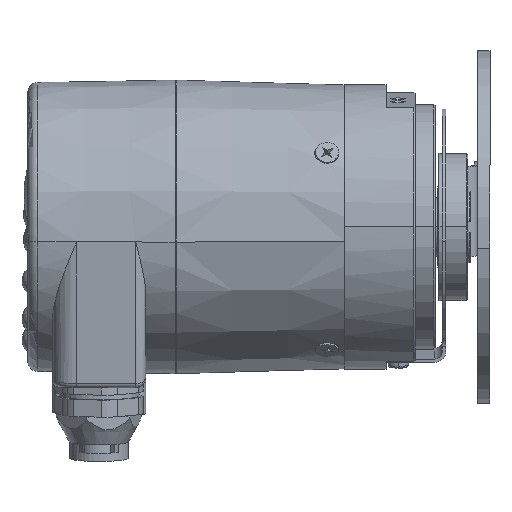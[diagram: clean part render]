
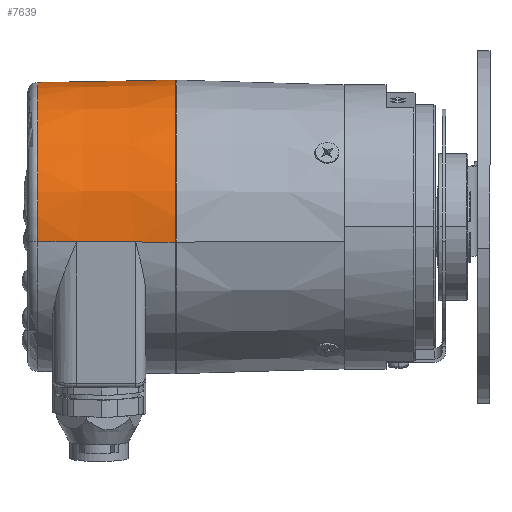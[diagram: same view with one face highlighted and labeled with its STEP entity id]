
A CAD part, top view. The second image highlights one B-rep face of the part: STEP entity #7639.
In plain terms, the highlighted conical face has half-angle 1 degrees and reference radius 30 mm.
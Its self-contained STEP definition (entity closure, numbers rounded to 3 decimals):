
#4719 = VERTEX_POINT ( 'NONE', #23916 ) ;
#4720 = VERTEX_POINT ( 'NONE', #23915 ) ;
#4721 = ORIENTED_EDGE ( 'NONE', *, *, #4779, .T. ) ;
#4722 = ORIENTED_EDGE ( 'NONE', *, *, #4842, .T. ) ;
#4778 = VERTEX_POINT ( 'NONE', #24098 ) ;
#4779 = EDGE_CURVE ( 'NONE', #4720, #4778, #24097, .T. ) ;
#4780 = EDGE_CURVE ( 'NONE', #4781, #4720, #24093, .T. ) ;
#4781 = VERTEX_POINT ( 'NONE', #24088 ) ;
#4782 = ORIENTED_EDGE ( 'NONE', *, *, #4783, .T. ) ;
#4783 = EDGE_CURVE ( 'NONE', #4778, #4719, #24087, .T. ) ;
#4822 = VERTEX_POINT ( 'NONE', #24192 ) ;
#4824 = ORIENTED_EDGE ( 'NONE', *, *, #4892, .F. ) ;
#4833 = VERTEX_POINT ( 'NONE', #24265 ) ;
#4838 = ORIENTED_EDGE ( 'NONE', *, *, #4891, .F. ) ;
#4842 = EDGE_CURVE ( 'NONE', #4719, #4833, #24299, .T. ) ;
#4891 = EDGE_CURVE ( 'NONE', #4822, #4833, #24395, .T. ) ;
#4892 = EDGE_CURVE ( 'NONE', #4893, #4822, #24455, .T. ) ;
#4893 = VERTEX_POINT ( 'NONE', #24451 ) ;
#4954 = ORIENTED_EDGE ( 'NONE', *, *, #5071, .F. ) ;
#5071 = EDGE_CURVE ( 'NONE', #5080, #4893, #25025, .T. ) ;
#5072 = ORIENTED_EDGE ( 'NONE', *, *, #5073, .F. ) ;
#5073 = EDGE_CURVE ( 'NONE', #4781, #5080, #25016, .T. ) ;
#5080 = VERTEX_POINT ( 'NONE', #25003 ) ;
#7638 = EDGE_LOOP ( 'NONE', ( #7686, #4721, #4782, #4722, #4838, #4824, #4954, #5072 ) ) ;
#7639 = ADVANCED_FACE ( 'NONE', ( #17414 ), #17462, .T. ) ;
#7686 = ORIENTED_EDGE ( 'NONE', *, *, #4780, .T. ) ;
#17414 = FACE_OUTER_BOUND ( 'NONE', #7638, .T. ) ;
#17459 = DIRECTION ( 'NONE',  ( 0., 0.105, -0.995 ) ) ;
#17460 = DIRECTION ( 'NONE',  ( 1., 0., 0. ) ) ;
#17461 = AXIS2_PLACEMENT_3D ( 'NONE', #17464, #17460, #17459 ) ;
#17462 = CONICAL_SURFACE ( 'NONE', #17461, 30., 0.017 ) ;
#17464 = CARTESIAN_POINT ( 'NONE',  ( -26.295, 0.928, -0.332 ) ) ;
#23915 = CARTESIAN_POINT ( 'NONE',  ( -54.33, -2.157, 29.017 ) ) ;
#23916 = CARTESIAN_POINT ( 'NONE',  ( -34.33, -2.194, 29.365 ) ) ;
#24084 = DIRECTION ( 'NONE',  ( 1., -0.002, 0.017 ) ) ;
#24085 = VECTOR ( 'NONE', #24084, 1000. ) ;
#24086 = CARTESIAN_POINT ( 'NONE',  ( -26.819, -2.207, 29.495 ) ) ;
#24087 = LINE ( 'NONE', #24086, #24085 ) ;
#24088 = CARTESIAN_POINT ( 'NONE',  ( -54.33, 4.012, -29.681 ) ) ;
#24089 = DIRECTION ( 'NONE',  ( 0., -0.105, 0.995 ) ) ;
#24090 = DIRECTION ( 'NONE',  ( 1., 0., 0. ) ) ;
#24091 = CARTESIAN_POINT ( 'NONE',  ( -54.33, 0.928, -0.332 ) ) ;
#24092 = AXIS2_PLACEMENT_3D ( 'NONE', #24091, #24090, #24089 ) ;
#24093 = CIRCLE ( 'NONE', #24092, 29.511 ) ;
#24094 = DIRECTION ( 'NONE',  ( 1., -0.002, 0.017 ) ) ;
#24095 = VECTOR ( 'NONE', #24094, 1000. ) ;
#24096 = CARTESIAN_POINT ( 'NONE',  ( -26.295, -2.208, 29.504 ) ) ;
#24097 = LINE ( 'NONE', #24096, #24095 ) ;
#24098 = CARTESIAN_POINT ( 'NONE',  ( -46.383, -2.172, 29.155 ) ) ;
#24192 = CARTESIAN_POINT ( 'NONE',  ( -26.295, 4.064, -30.167 ) ) ;
#24265 = CARTESIAN_POINT ( 'NONE',  ( -26.295, -2.208, 29.504 ) ) ;
#24296 = DIRECTION ( 'NONE',  ( 1., -0.002, 0.017 ) ) ;
#24297 = VECTOR ( 'NONE', #24296, 1000. ) ;
#24298 = CARTESIAN_POINT ( 'NONE',  ( -26.295, -2.208, 29.504 ) ) ;
#24299 = LINE ( 'NONE', #24298, #24297 ) ;
#24391 = DIRECTION ( 'NONE',  ( 0., 0.105, -0.995 ) ) ;
#24392 = DIRECTION ( 'NONE',  ( 1., 0., 0. ) ) ;
#24393 = CARTESIAN_POINT ( 'NONE',  ( -26.295, 0.928, -0.332 ) ) ;
#24394 = AXIS2_PLACEMENT_3D ( 'NONE', #24393, #24392, #24391 ) ;
#24395 = CIRCLE ( 'NONE', #24394, 30. ) ;
#24451 = CARTESIAN_POINT ( 'NONE',  ( -34.33, 4.049, -30.028 ) ) ;
#24452 = DIRECTION ( 'NONE',  ( 1., 0.002, -0.017 ) ) ;
#24453 = VECTOR ( 'NONE', #24452, 1000. ) ;
#24454 = CARTESIAN_POINT ( 'NONE',  ( -26.295, 4.064, -30.167 ) ) ;
#24455 = LINE ( 'NONE', #24454, #24453 ) ;
#25003 = CARTESIAN_POINT ( 'NONE',  ( -46.383, 4.027, -29.819 ) ) ;
#25013 = DIRECTION ( 'NONE',  ( 1., 0.002, -0.017 ) ) ;
#25014 = VECTOR ( 'NONE', #25013, 1000. ) ;
#25015 = CARTESIAN_POINT ( 'NONE',  ( -26.295, 4.064, -30.167 ) ) ;
#25016 = LINE ( 'NONE', #25015, #25014 ) ;
#25017 = DIRECTION ( 'NONE',  ( 1., 0.002, -0.017 ) ) ;
#25018 = VECTOR ( 'NONE', #25017, 1000. ) ;
#25019 = CARTESIAN_POINT ( 'NONE',  ( -26.819, 4.063, -30.158 ) ) ;
#25025 = LINE ( 'NONE', #25019, #25018 ) ;
